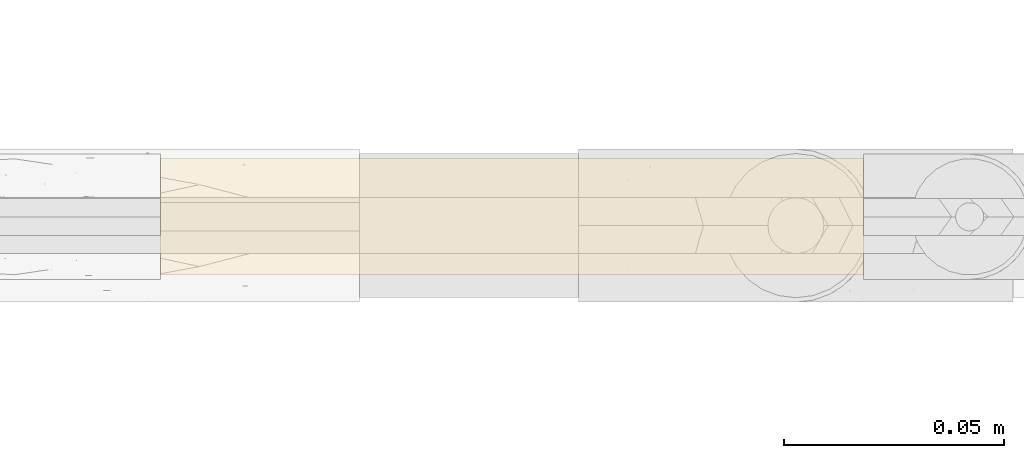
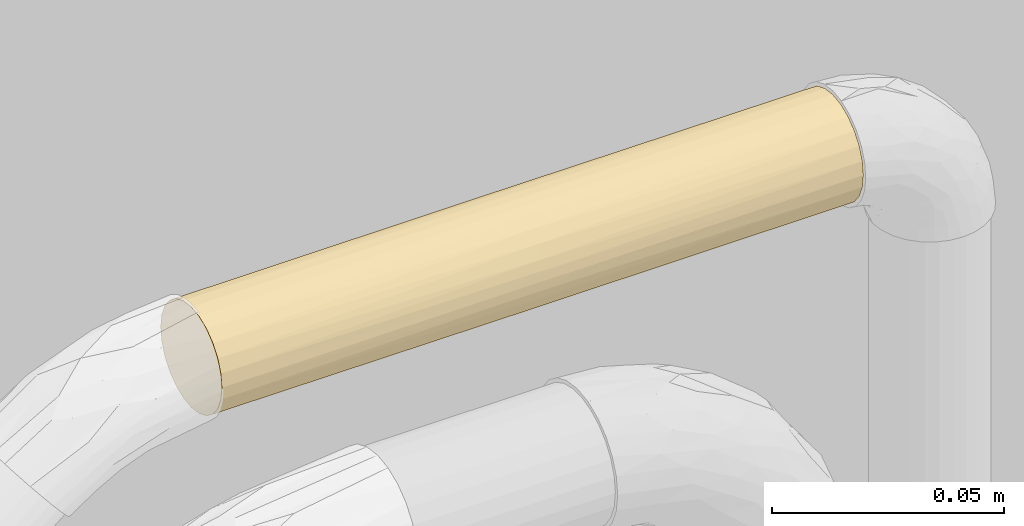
# One storey, part 6 of 30: 1 covering.
"""IFC2X3 building model written with IfcOpenShell, lengths in metres."""

from ifc_helpers import new_model, entity, si_unit, converted_unit, derived_unit, direction, frame, origin, place, context, subcontext, project, spatial, faceted_brep, material, type_object, element, save


model = new_model("IFC2X3")

# Units and contexts
model_context = context("Model", 3, precision=1e-05, world=origin(), true_north=direction((6.123031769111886e-17, 1.0)))
body_context = subcontext(model_context, "Body", "Model", "MODEL_VIEW")
ifc_project = project(units=[si_unit("LENGTHUNIT", "METRE"), si_unit("AREAUNIT", "SQUARE_METRE"), si_unit("VOLUMEUNIT", "CUBIC_METRE"), converted_unit("PLANEANGLEUNIT", "DEGREE", entity("IfcPlaneAngleMeasure", 0.017453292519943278), si_unit("PLANEANGLEUNIT", "RADIAN"), dimensions=[0, 0, 0, 0, 0, 0, 0]), si_unit("MASSUNIT", "GRAM", prefix="KILO"), derived_unit("MASSDENSITYUNIT", [(si_unit("MASSUNIT", "GRAM", prefix="KILO"), 1), (si_unit("LENGTHUNIT", "METRE"), -3)]), derived_unit("IONCONCENTRATIONUNIT", [(si_unit("MASSUNIT", "GRAM", prefix="KILO"), 1), (si_unit("LENGTHUNIT", "METRE"), -3)]), derived_unit("MOMENTOFINERTIAUNIT", [(si_unit("LENGTHUNIT", "METRE"), 4)]), si_unit("TIMEUNIT", "SECOND"), si_unit("FREQUENCYUNIT", "HERTZ"), si_unit("THERMODYNAMICTEMPERATUREUNIT", "DEGREE_CELSIUS"), derived_unit("THERMALTRANSMITTANCEUNIT", [(si_unit("MASSUNIT", "GRAM", prefix="KILO"), 1), (si_unit("THERMODYNAMICTEMPERATUREUNIT", "KELVIN"), -1), (si_unit("TIMEUNIT", "SECOND"), -3)]), derived_unit("THERMALCONDUCTANCEUNIT", [(si_unit("MASSUNIT", "GRAM", prefix="KILO"), 1), (si_unit("THERMODYNAMICTEMPERATUREUNIT", "KELVIN"), -1), (si_unit("TIMEUNIT", "SECOND"), -3), (si_unit("LENGTHUNIT", "METRE"), 1)]), derived_unit("VOLUMETRICFLOWRATEUNIT", [(si_unit("LENGTHUNIT", "METRE", prefix="DECI"), 3), (si_unit("TIMEUNIT", "SECOND"), -1)]), derived_unit("MASSFLOWRATEUNIT", [(si_unit("MASSUNIT", "GRAM", prefix="KILO"), 1), (si_unit("TIMEUNIT", "SECOND"), -1)]), derived_unit("ROTATIONALFREQUENCYUNIT", [(si_unit("TIMEUNIT", "SECOND"), -1)]), si_unit("ELECTRICCURRENTUNIT", "AMPERE"), si_unit("ELECTRICVOLTAGEUNIT", "VOLT"), si_unit("POWERUNIT", "WATT"), si_unit("FORCEUNIT", "NEWTON", prefix="KILO"), si_unit("ILLUMINANCEUNIT", "LUX"), si_unit("LUMINOUSFLUXUNIT", "LUMEN"), si_unit("LUMINOUSINTENSITYUNIT", "CANDELA"), si_unit("ENERGYUNIT", "JOULE"), derived_unit("USERDEFINED", [(si_unit("MASSUNIT", "GRAM", prefix="KILO"), -1), (si_unit("LENGTHUNIT", "METRE"), -2), (si_unit("TIMEUNIT", "SECOND"), 3), (si_unit("LUMINOUSFLUXUNIT", "LUMEN"), 1)]), derived_unit("USERDEFINED", [(si_unit("MASSUNIT", "GRAM", prefix="KILO"), 1), (si_unit("TIMEUNIT", "SECOND"), -3), (si_unit("LENGTHUNIT", "METRE"), 3), (si_unit("ELECTRICCURRENTUNIT", "AMPERE"), -2)]), derived_unit("SOUNDPOWERUNIT", [(si_unit("MASSUNIT", "GRAM", prefix="KILO"), 1), (si_unit("TIMEUNIT", "SECOND"), -3), (si_unit("LENGTHUNIT", "METRE"), 2)]), derived_unit("SOUNDPRESSUREUNIT", [(si_unit("MASSUNIT", "GRAM", prefix="KILO"), 1), (si_unit("LENGTHUNIT", "METRE"), -1), (si_unit("TIMEUNIT", "SECOND"), -2)]), derived_unit("LINEARVELOCITYUNIT", [(si_unit("LENGTHUNIT", "METRE"), 1), (si_unit("TIMEUNIT", "SECOND"), -1)]), si_unit("PRESSUREUNIT", "PASCAL"), derived_unit("USERDEFINED", [(si_unit("MASSUNIT", "GRAM", prefix="KILO"), 1), (si_unit("LENGTHUNIT", "METRE"), -2), (si_unit("TIMEUNIT", "SECOND"), -2)]), derived_unit("LINEARFORCEUNIT", [(si_unit("MASSUNIT", "GRAM", prefix="KILO"), 1), (si_unit("TIMEUNIT", "SECOND"), -2)]), derived_unit("PLANARFORCEUNIT", [(si_unit("MASSUNIT", "GRAM", prefix="KILO"), 1), (si_unit("LENGTHUNIT", "METRE"), -1), (si_unit("TIMEUNIT", "SECOND"), -2)]), derived_unit("SPECIFICHEATCAPACITYUNIT", [(si_unit("THERMODYNAMICTEMPERATUREUNIT", "KELVIN"), -1), (si_unit("LENGTHUNIT", "METRE"), 2), (si_unit("TIMEUNIT", "SECOND"), -2)]), derived_unit("HEATFLUXDENSITYUNIT", [(si_unit("MASSUNIT", "GRAM", prefix="KILO"), 1), (si_unit("TIMEUNIT", "SECOND"), -3)]), derived_unit("HEATINGVALUEUNIT", [(si_unit("LENGTHUNIT", "METRE"), 2), (si_unit("TIMEUNIT", "SECOND"), -2)]), derived_unit("VAPORPERMEABILITYUNIT", [(si_unit("LENGTHUNIT", "METRE"), -1), (si_unit("TIMEUNIT", "SECOND"), 1)]), derived_unit("DYNAMICVISCOSITYUNIT", [(si_unit("MASSUNIT", "GRAM", prefix="KILO"), 1), (si_unit("TIMEUNIT", "SECOND"), -1), (si_unit("LENGTHUNIT", "METRE"), -1)]), derived_unit("THERMALEXPANSIONCOEFFICIENTUNIT", [(si_unit("THERMODYNAMICTEMPERATUREUNIT", "KELVIN"), -1)]), derived_unit("MODULUSOFELASTICITYUNIT", [(si_unit("MASSUNIT", "GRAM", prefix="KILO"), 1), (si_unit("LENGTHUNIT", "METRE"), -1), (si_unit("TIMEUNIT", "SECOND"), -2)]), derived_unit("ISOTHERMALMOISTURECAPACITYUNIT", [(si_unit("MASSUNIT", "GRAM", prefix="KILO"), -1), (si_unit("LENGTHUNIT", "METRE"), 3)]), derived_unit("MOISTUREDIFFUSIVITYUNIT", [(si_unit("TIMEUNIT", "SECOND"), -1), (si_unit("LENGTHUNIT", "METRE"), 2)]), derived_unit("MASSPERLENGTHUNIT", [(si_unit("MASSUNIT", "GRAM", prefix="KILO"), 1), (si_unit("LENGTHUNIT", "METRE"), -1)]), derived_unit("THERMALRESISTANCEUNIT", [(si_unit("MASSUNIT", "GRAM", prefix="KILO"), -1), (si_unit("TIMEUNIT", "SECOND"), 3), (si_unit("THERMODYNAMICTEMPERATUREUNIT", "KELVIN"), 1)]), derived_unit("ACCELERATIONUNIT", [(si_unit("LENGTHUNIT", "METRE"), 1), (si_unit("TIMEUNIT", "SECOND"), -2)]), derived_unit("ANGULARVELOCITYUNIT", [(si_unit("TIMEUNIT", "SECOND"), -1), (si_unit("PLANEANGLEUNIT", "RADIAN"), 1)]), derived_unit("LINEARSTIFFNESSUNIT", [(si_unit("MASSUNIT", "GRAM", prefix="KILO"), 1), (si_unit("TIMEUNIT", "SECOND"), -2)]), derived_unit("WARPINGCONSTANTUNIT", [(si_unit("LENGTHUNIT", "METRE"), 6)]), derived_unit("LINEARMOMENTUNIT", [(si_unit("MASSUNIT", "GRAM", prefix="KILO"), 1), (si_unit("LENGTHUNIT", "METRE"), 1), (si_unit("TIMEUNIT", "SECOND"), -2)]), derived_unit("TORQUEUNIT", [(si_unit("MASSUNIT", "GRAM", prefix="KILO"), 1), (si_unit("LENGTHUNIT", "METRE"), 2), (si_unit("TIMEUNIT", "SECOND"), -2)])], contexts=[model_context])

# Site, building, storey
site_placement = place(None, origin())
site = spatial("IfcSite", under=ifc_project, at=site_placement, Name="Default", CompositionType="ELEMENT")
building_placement = place(site_placement, origin())
building = spatial("IfcBuilding", under=site, at=building_placement, CompositionType="ELEMENT")
storey_placement = place(building_placement, origin())
storey = spatial("IfcBuildingStorey", under=building, at=storey_placement, Name="Niveau 0", CompositionType="ELEMENT", Elevation=-1.949160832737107e-14)

# Covering
ifc_material = material(Name="Matériau du rendu 255-255-255")
covering_type = type_object("IfcCoveringType", Name="Isolation des canalisations:Par défaut", PredefinedType="INSULATION")
covering_placement = place(storey_placement, frame((-21.060457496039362, 1.362257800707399, 0.07854831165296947)))
element("IfcCovering", 1, at=covering_placement, inside=storey, type_object=covering_type, material=ifc_material, Name="Isolation des canalisations:Par défaut", ObjectType="Isolation des canalisations:Par défaut", PredefinedType="INSULATION", context=body_context, shape_type="Brep", body=[
    faceted_brep([(0.0, 0.005461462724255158, 0.005461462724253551), (0.0, 0.003363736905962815, 0.008195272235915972), (0.0, 0.0020450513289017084, 0.011378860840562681), (0.0, 0.001595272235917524, 0.014795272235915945), (0.0, 0.0020450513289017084, 0.018211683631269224), (0.0, 0.003363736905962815, 0.02139527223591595), (0.0, 0.005461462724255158, 0.024129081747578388), (0.0, 0.008195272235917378, 0.026226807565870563), (0.0, 0.011378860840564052, 0.027545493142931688), (0.0, 0.0147952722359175, 0.02799527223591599), (0.0, 0.01821168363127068, 0.027545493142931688), (0.0, 0.021395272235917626, 0.02622680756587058), (0.0, 0.024129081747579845, 0.024129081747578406), (0.0, 0.026226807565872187, 0.021395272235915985), (0.0, 0.027545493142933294, 0.01821168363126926), (0.0, 0.027995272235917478, 0.014795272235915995), (0.0, 0.027545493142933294, 0.011378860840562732), (0.0, 0.026226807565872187, 0.008195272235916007), (0.0, 0.024129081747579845, 0.005461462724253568), (0.0, 0.021395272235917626, 0.003363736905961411), (0.0, 0.01821168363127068, 0.0020450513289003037), (0.0, 0.0147952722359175, 0.0015952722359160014), (0.0, 0.011378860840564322, 0.0020450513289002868), (0.0, 0.008195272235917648, 0.003363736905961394), (0.15944880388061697, 0.002045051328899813, 0.01137886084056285), (0.15944880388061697, 0.00336373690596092, 0.008195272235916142), (0.15944880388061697, 0.005461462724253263, 0.00546146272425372), (0.15944880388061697, 0.008195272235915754, 0.003363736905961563), (0.15944880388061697, 0.011378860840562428, 0.0020450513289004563), (0.15944880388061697, 0.014795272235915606, 0.0015952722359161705), (0.15944880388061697, 0.018211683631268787, 0.0020450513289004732), (0.15944880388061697, 0.02139527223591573, 0.00336373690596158), (0.15944880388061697, 0.02412908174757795, 0.005461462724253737), (0.15944880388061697, 0.026226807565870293, 0.008195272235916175), (0.15944880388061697, 0.0275454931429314, 0.011378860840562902), (0.15944880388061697, 0.027995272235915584, 0.014795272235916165), (0.15944880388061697, 0.0275454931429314, 0.01821168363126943), (0.15944880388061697, 0.026226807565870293, 0.021395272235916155), (0.15944880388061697, 0.02412908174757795, 0.024129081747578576), (0.15944880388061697, 0.02139527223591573, 0.02622680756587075), (0.15944880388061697, 0.018211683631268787, 0.027545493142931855), (0.15944880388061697, 0.014795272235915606, 0.02799527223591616), (0.15944880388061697, 0.011378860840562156, 0.027545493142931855), (0.15944880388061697, 0.008195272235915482, 0.026226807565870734), (0.15944880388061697, 0.005461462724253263, 0.024129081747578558), (0.15944880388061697, 0.00336373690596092, 0.02139527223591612), (0.15944880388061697, 0.002045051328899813, 0.018211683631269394), (0.15944880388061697, 0.001595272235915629, 0.01479527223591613), (0.07972440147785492, 0.025267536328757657, 0.006759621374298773), (0.07972440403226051, 0.02699048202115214, 0.00974385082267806), (0.08740952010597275, 0.027753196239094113, 0.012278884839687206), (0.06342996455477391, 0.027995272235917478, 0.014795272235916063), (0.09601885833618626, 0.014795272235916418, 0.0015952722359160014), (0.07203928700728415, 0.017311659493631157, 0.0018373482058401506), (0.07972440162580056, 0.022830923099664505, 0.004323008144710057), (0.07972440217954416, 0.019846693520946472, 0.0026000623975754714), (0.09601884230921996, 0.027995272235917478, 0.014795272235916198), (0.06342996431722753, 0.014795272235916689, 0.0015952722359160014), (0.07972440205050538, 0.009743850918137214, 0.0026000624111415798), (0.08740951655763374, 0.012278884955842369, 0.0018373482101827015), (0.07203928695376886, 0.0018373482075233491, 0.012278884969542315), (0.07972440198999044, 0.0026000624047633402, 0.009743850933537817), (0.07972440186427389, 0.006759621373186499, 0.004323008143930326), (0.07972440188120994, 0.004323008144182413, 0.006759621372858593), (0.09601884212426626, 0.001595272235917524, 0.014795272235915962), (0.06343006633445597, 0.001595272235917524, 0.01479527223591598), (0.07972440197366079, 0.002600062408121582, 0.019846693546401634), (0.08740951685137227, 0.001837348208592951, 0.01731165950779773), (0.07203928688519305, 0.012278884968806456, 0.027753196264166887), (0.07972440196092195, 0.009743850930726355, 0.026990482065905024), (0.07972440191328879, 0.0043230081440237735, 0.022830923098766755), (0.07972440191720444, 0.006759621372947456, 0.02526753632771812), (0.09601884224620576, 0.014795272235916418, 0.02799527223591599), (0.0634299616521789, 0.014795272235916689, 0.02799527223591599), (0.07972440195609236, 0.01984669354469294, 0.0269904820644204), (0.08740951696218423, 0.017311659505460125, 0.027753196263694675), (0.07203928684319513, 0.02775319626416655, 0.017311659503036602), (0.07972440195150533, 0.026990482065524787, 0.019846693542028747), (0.07972440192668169, 0.022830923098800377, 0.025267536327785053), (0.07972440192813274, 0.02526753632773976, 0.02283092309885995)], [[[0, 1, 2, 3, 4, 5, 6, 7, 8, 9, 10, 11, 12, 13, 14, 15, 16, 17, 18, 19, 20, 21, 22, 23]], [[24, 25, 26, 27, 28, 29, 30, 31, 32, 33, 34, 35, 36, 37, 38, 39, 40, 41, 42, 43, 44, 45, 46, 47]], [[48, 49, 33]], [[50, 16, 51]], [[34, 33, 49]], [[50, 34, 49]], [[16, 49, 17]], [[34, 50, 35]], [[30, 52, 53]], [[16, 15, 51]], [[48, 18, 17]], [[32, 48, 33]], [[54, 48, 32]], [[49, 48, 17]], [[55, 31, 30]], [[50, 51, 56, 35]], [[16, 50, 49]], [[21, 20, 53]], [[54, 19, 18]], [[55, 54, 31]], [[30, 29, 52]], [[55, 19, 54]], [[48, 54, 18]], [[53, 20, 55]], [[31, 54, 32]], [[30, 53, 55]], [[53, 52, 57, 21]], [[19, 55, 20]], [[58, 59, 28]], [[24, 60, 61]], [[59, 57, 52, 29]], [[58, 28, 27]], [[22, 21, 57]], [[59, 29, 28]], [[22, 58, 23]], [[22, 57, 59]], [[62, 0, 23]], [[62, 58, 27]], [[63, 62, 26]], [[60, 64, 65, 3]], [[61, 25, 24]], [[24, 47, 64]], [[60, 2, 61]], [[3, 2, 60]], [[63, 1, 0]], [[61, 63, 25]], [[24, 64, 60]], [[61, 1, 63]], [[62, 63, 0]], [[26, 62, 27]], [[1, 61, 2]], [[25, 63, 26]], [[22, 59, 58]], [[58, 62, 23]], [[66, 67, 46]], [[42, 68, 69]], [[67, 65, 64, 47]], [[66, 46, 45]], [[4, 3, 65]], [[67, 47, 46]], [[4, 66, 5]], [[4, 65, 67]], [[70, 6, 5]], [[70, 66, 45]], [[71, 70, 44]], [[68, 72, 73, 9]], [[69, 43, 42]], [[42, 41, 72]], [[68, 8, 69]], [[9, 8, 68]], [[71, 7, 6]], [[69, 71, 43]], [[42, 72, 68]], [[69, 7, 71]], [[70, 71, 6]], [[44, 70, 45]], [[7, 69, 8]], [[43, 71, 44]], [[4, 67, 66]], [[66, 70, 5]], [[74, 75, 40]], [[36, 76, 77]], [[75, 73, 72, 41]], [[74, 40, 39]], [[10, 9, 73]], [[75, 41, 40]], [[10, 74, 11]], [[10, 73, 75]], [[78, 12, 11]], [[78, 74, 39]], [[79, 78, 38]], [[76, 56, 51, 15]], [[77, 37, 36]], [[36, 35, 56]], [[76, 14, 77]], [[15, 14, 76]], [[79, 13, 12]], [[77, 79, 37]], [[36, 56, 76]], [[77, 13, 79]], [[78, 79, 12]], [[38, 78, 39]], [[13, 77, 14]], [[37, 79, 38]], [[10, 75, 74]], [[74, 78, 11]]]),
])

save(model, "model.ifc")
